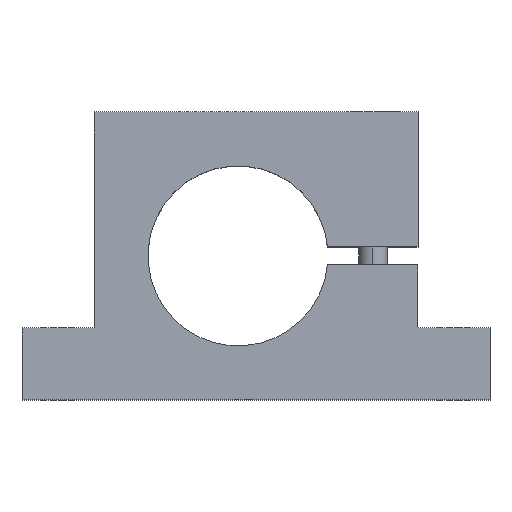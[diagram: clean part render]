
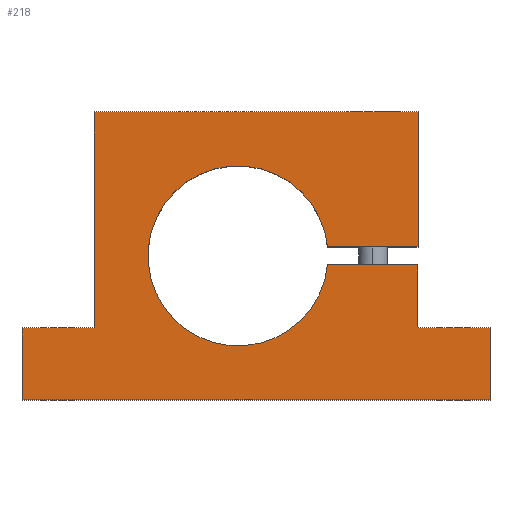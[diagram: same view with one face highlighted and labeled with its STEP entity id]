
A CAD part, top view. The second image highlights one B-rep face of the part: STEP entity #218.
In plain terms, the highlighted planar face has unit normal (0, 0, 1).
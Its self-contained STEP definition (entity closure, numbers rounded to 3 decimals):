
#61=CARTESIAN_POINT('Vertex',(-24.875,42.5,30.)) ;
#66=CARTESIAN_POINT('Axis2P3D Location',(0.,40.,30.)) ;
#70=CARTESIAN_POINT('Vertex',(24.875,37.5,30.)) ;
#108=CARTESIAN_POINT('Vertex',(24.875,42.5,30.)) ;
#111=CARTESIAN_POINT('Axis2P3D Location',(0.,40.,30.)) ;
#123=CARTESIAN_POINT('Axis2P3D Location',(0.,0.,30.)) ;
#128=CARTESIAN_POINT('Line Origine',(-60.,10.,30.)) ;
#132=CARTESIAN_POINT('Vertex',(-60.,0.,30.)) ;
#134=CARTESIAN_POINT('Vertex',(-60.,20.,30.)) ;
#137=CARTESIAN_POINT('Line Origine',(5.,0.,30.)) ;
#141=CARTESIAN_POINT('Vertex',(70.,0.,30.)) ;
#144=CARTESIAN_POINT('Line Origine',(70.,10.,30.)) ;
#148=CARTESIAN_POINT('Vertex',(70.,20.,30.)) ;
#151=CARTESIAN_POINT('Line Origine',(60.,20.,30.)) ;
#155=CARTESIAN_POINT('Vertex',(50.,20.,30.)) ;
#158=CARTESIAN_POINT('Line Origine',(50.,28.75,30.)) ;
#162=CARTESIAN_POINT('Vertex',(50.,37.5,30.)) ;
#165=CARTESIAN_POINT('Line Origine',(37.437,37.5,30.)) ;
#170=CARTESIAN_POINT('Line Origine',(37.437,42.5,30.)) ;
#174=CARTESIAN_POINT('Vertex',(50.,42.5,30.)) ;
#177=CARTESIAN_POINT('Line Origine',(50.,61.25,30.)) ;
#181=CARTESIAN_POINT('Vertex',(50.,80.,30.)) ;
#184=CARTESIAN_POINT('Line Origine',(5.,80.,30.)) ;
#188=CARTESIAN_POINT('Vertex',(-40.,80.,30.)) ;
#191=CARTESIAN_POINT('Line Origine',(-40.,50.,30.)) ;
#195=CARTESIAN_POINT('Vertex',(-40.,20.,30.)) ;
#198=CARTESIAN_POINT('Line Origine',(-50.,20.,30.)) ;
#67=DIRECTION('Axis2P3D Direction',(0.,0.,-1.)) ;
#112=DIRECTION('Axis2P3D Direction',(0.,0.,-1.)) ;
#124=DIRECTION('Axis2P3D Direction',(0.,0.,1.)) ;
#125=DIRECTION('Axis2P3D XDirection',(1.,0.,0.)) ;
#129=DIRECTION('Vector Direction',(0.,1.,0.)) ;
#138=DIRECTION('Vector Direction',(-1.,0.,0.)) ;
#145=DIRECTION('Vector Direction',(0.,-1.,0.)) ;
#152=DIRECTION('Vector Direction',(1.,0.,0.)) ;
#159=DIRECTION('Vector Direction',(0.,-1.,0.)) ;
#166=DIRECTION('Vector Direction',(1.,0.,0.)) ;
#171=DIRECTION('Vector Direction',(-1.,0.,0.)) ;
#178=DIRECTION('Vector Direction',(0.,-1.,0.)) ;
#185=DIRECTION('Vector Direction',(1.,0.,0.)) ;
#192=DIRECTION('Vector Direction',(0.,1.,0.)) ;
#199=DIRECTION('Vector Direction',(1.,0.,0.)) ;
#68=AXIS2_PLACEMENT_3D('Circle Axis2P3D',#66,#67,$) ;
#113=AXIS2_PLACEMENT_3D('Circle Axis2P3D',#111,#112,$) ;
#126=AXIS2_PLACEMENT_3D('Plane Axis2P3D',#123,#124,#125) ;
#204=ORIENTED_EDGE('',*,*,#136,.F.) ;
#205=ORIENTED_EDGE('',*,*,#143,.F.) ;
#206=ORIENTED_EDGE('',*,*,#150,.F.) ;
#207=ORIENTED_EDGE('',*,*,#157,.F.) ;
#208=ORIENTED_EDGE('',*,*,#164,.F.) ;
#209=ORIENTED_EDGE('',*,*,#169,.F.) ;
#210=ORIENTED_EDGE('',*,*,#72,.F.) ;
#211=ORIENTED_EDGE('',*,*,#115,.F.) ;
#212=ORIENTED_EDGE('',*,*,#176,.F.) ;
#213=ORIENTED_EDGE('',*,*,#183,.F.) ;
#214=ORIENTED_EDGE('',*,*,#190,.F.) ;
#215=ORIENTED_EDGE('',*,*,#197,.F.) ;
#216=ORIENTED_EDGE('',*,*,#202,.F.) ;
#130=VECTOR('Line Direction',#129,1.) ;
#139=VECTOR('Line Direction',#138,1.) ;
#146=VECTOR('Line Direction',#145,1.) ;
#153=VECTOR('Line Direction',#152,1.) ;
#160=VECTOR('Line Direction',#159,1.) ;
#167=VECTOR('Line Direction',#166,1.) ;
#172=VECTOR('Line Direction',#171,1.) ;
#179=VECTOR('Line Direction',#178,1.) ;
#186=VECTOR('Line Direction',#185,1.) ;
#193=VECTOR('Line Direction',#192,1.) ;
#200=VECTOR('Line Direction',#199,1.) ;
#218=ADVANCED_FACE('',(#217),#127,.T.) ;
#69=CIRCLE('generated circle',#68,25.) ;
#114=CIRCLE('generated circle',#113,25.) ;
#72=EDGE_CURVE('',#62,#71,#69,.F.) ;
#115=EDGE_CURVE('',#109,#62,#114,.F.) ;
#136=EDGE_CURVE('',#133,#135,#131,.T.) ;
#143=EDGE_CURVE('',#142,#133,#140,.T.) ;
#150=EDGE_CURVE('',#149,#142,#147,.T.) ;
#157=EDGE_CURVE('',#156,#149,#154,.T.) ;
#164=EDGE_CURVE('',#163,#156,#161,.T.) ;
#169=EDGE_CURVE('',#71,#163,#168,.T.) ;
#176=EDGE_CURVE('',#175,#109,#173,.T.) ;
#183=EDGE_CURVE('',#182,#175,#180,.T.) ;
#190=EDGE_CURVE('',#189,#182,#187,.T.) ;
#197=EDGE_CURVE('',#196,#189,#194,.T.) ;
#202=EDGE_CURVE('',#135,#196,#201,.T.) ;
#203=EDGE_LOOP('',(#204,#205,#206,#207,#208,#209,#210,#211,#212,#213,#214,#215,#216)) ;
#217=FACE_OUTER_BOUND('',#203,.T.) ;
#131=LINE('Line',#128,#130) ;
#140=LINE('Line',#137,#139) ;
#147=LINE('Line',#144,#146) ;
#154=LINE('Line',#151,#153) ;
#161=LINE('Line',#158,#160) ;
#168=LINE('Line',#165,#167) ;
#173=LINE('Line',#170,#172) ;
#180=LINE('Line',#177,#179) ;
#187=LINE('Line',#184,#186) ;
#194=LINE('Line',#191,#193) ;
#201=LINE('Line',#198,#200) ;
#127=PLANE('Plane',#126) ;
#62=VERTEX_POINT('',#61) ;
#71=VERTEX_POINT('',#70) ;
#109=VERTEX_POINT('',#108) ;
#133=VERTEX_POINT('',#132) ;
#135=VERTEX_POINT('',#134) ;
#142=VERTEX_POINT('',#141) ;
#149=VERTEX_POINT('',#148) ;
#156=VERTEX_POINT('',#155) ;
#163=VERTEX_POINT('',#162) ;
#175=VERTEX_POINT('',#174) ;
#182=VERTEX_POINT('',#181) ;
#189=VERTEX_POINT('',#188) ;
#196=VERTEX_POINT('',#195) ;
